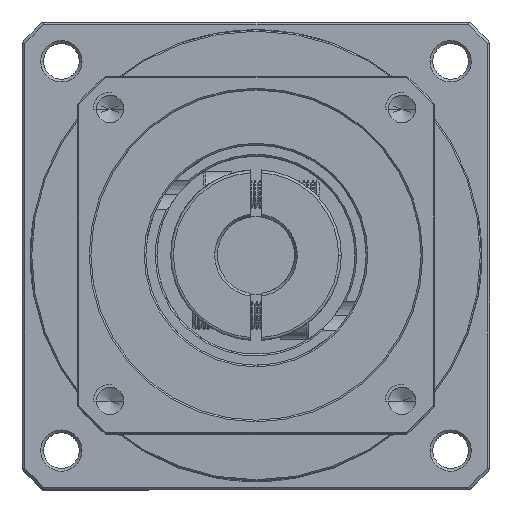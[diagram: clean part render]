
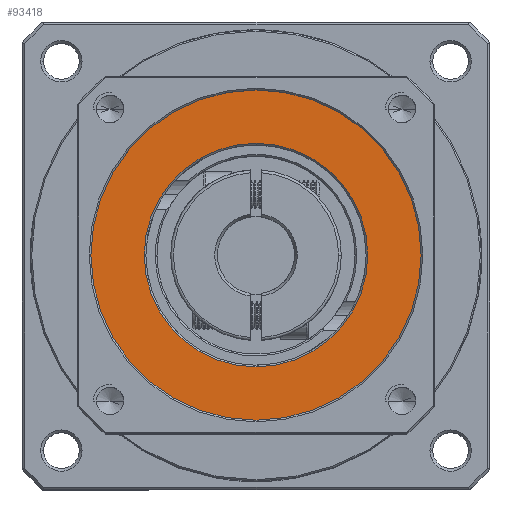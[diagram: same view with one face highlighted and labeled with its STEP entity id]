
A CAD part, top view. The second image highlights one B-rep face of the part: STEP entity #93418.
In plain terms, the highlighted planar face has unit normal (0, 0, 1).
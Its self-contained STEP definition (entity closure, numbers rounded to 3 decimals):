
#2871 = FACE_OUTER_BOUND ( 'NONE', #25142, .T. ) ;
#4325 = EDGE_LOOP ( 'NONE', ( #89909, #37725 ) ) ;
#5292 = AXIS2_PLACEMENT_3D ( 'NONE', #6091, #117211, #16377 ) ;
#6091 = CARTESIAN_POINT ( 'NONE',  ( -50.485, 43.615, -29.508 ) ) ;
#7436 = VERTEX_POINT ( 'NONE', #80276 ) ;
#10704 = AXIS2_PLACEMENT_3D ( 'NONE', #42600, #93454, #31485 ) ;
#16377 = DIRECTION ( 'NONE',  ( 1., 0., 0. ) ) ;
#16414 = CARTESIAN_POINT ( 'NONE',  ( -80.485, 43.615, -29.508 ) ) ;
#25142 = EDGE_LOOP ( 'NONE', ( #96187, #41500 ) ) ;
#25863 = CIRCLE ( 'NONE', #85091, 20.3 ) ;
#25896 = EDGE_CURVE ( 'NONE', #52977, #69724, #41688, .T. ) ;
#26362 = DIRECTION ( 'NONE',  ( 0., 0., 1. ) ) ;
#29703 = CARTESIAN_POINT ( 'NONE',  ( -30.185, 43.615, -29.508 ) ) ;
#31485 = DIRECTION ( 'NONE',  ( 1., 0., 0. ) ) ;
#37220 = EDGE_CURVE ( 'NONE', #69724, #52977, #60974, .T. ) ;
#37725 = ORIENTED_EDGE ( 'NONE', *, *, #130160, .T. ) ;
#41500 = ORIENTED_EDGE ( 'NONE', *, *, #25896, .T. ) ;
#41688 = CIRCLE ( 'NONE', #5292, 30. ) ;
#42600 = CARTESIAN_POINT ( 'NONE',  ( -50.485, 43.615, -29.508 ) ) ;
#43503 = VERTEX_POINT ( 'NONE', #29703 ) ;
#45787 = DIRECTION ( 'NONE',  ( 0., 0., -1. ) ) ;
#52977 = VERTEX_POINT ( 'NONE', #16414 ) ;
#58930 = AXIS2_PLACEMENT_3D ( 'NONE', #107474, #26362, #129392 ) ;
#60974 = CIRCLE ( 'NONE', #10704, 30. ) ;
#61100 = AXIS2_PLACEMENT_3D ( 'NONE', #118580, #45787, #119022 ) ;
#69089 = DIRECTION ( 'NONE',  ( 0., 0., -1. ) ) ;
#69724 = VERTEX_POINT ( 'NONE', #90206 ) ;
#80276 = CARTESIAN_POINT ( 'NONE',  ( -70.785, 43.615, -29.508 ) ) ;
#85091 = AXIS2_PLACEMENT_3D ( 'NONE', #88722, #69089, #90030 ) ;
#88722 = CARTESIAN_POINT ( 'NONE',  ( -50.485, 43.615, -29.508 ) ) ;
#89909 = ORIENTED_EDGE ( 'NONE', *, *, #116611, .T. ) ;
#90030 = DIRECTION ( 'NONE',  ( 1., 0., 0. ) ) ;
#90206 = CARTESIAN_POINT ( 'NONE',  ( -20.485, 43.615, -29.508 ) ) ;
#93418 = ADVANCED_FACE ( 'NONE', ( #97093, #2871 ), #97251, .T. ) ;
#93454 = DIRECTION ( 'NONE',  ( 0., 0., 1. ) ) ;
#96187 = ORIENTED_EDGE ( 'NONE', *, *, #37220, .T. ) ;
#97093 = FACE_BOUND ( 'NONE', #4325, .T. ) ;
#97251 = PLANE ( 'NONE',  #58930 ) ;
#107474 = CARTESIAN_POINT ( 'NONE',  ( -50.485, 43.615, -29.508 ) ) ;
#116611 = EDGE_CURVE ( 'NONE', #43503, #7436, #131340, .T. ) ;
#117211 = DIRECTION ( 'NONE',  ( 0., 0., 1. ) ) ;
#118580 = CARTESIAN_POINT ( 'NONE',  ( -50.485, 43.615, -29.508 ) ) ;
#119022 = DIRECTION ( 'NONE',  ( 1., 0., 0. ) ) ;
#129392 = DIRECTION ( 'NONE',  ( 1., 0., 0. ) ) ;
#130160 = EDGE_CURVE ( 'NONE', #7436, #43503, #25863, .T. ) ;
#131340 = CIRCLE ( 'NONE', #61100, 20.3 ) ;
